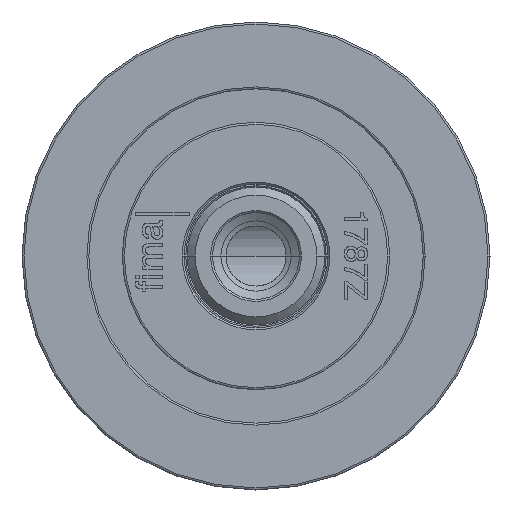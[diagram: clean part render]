
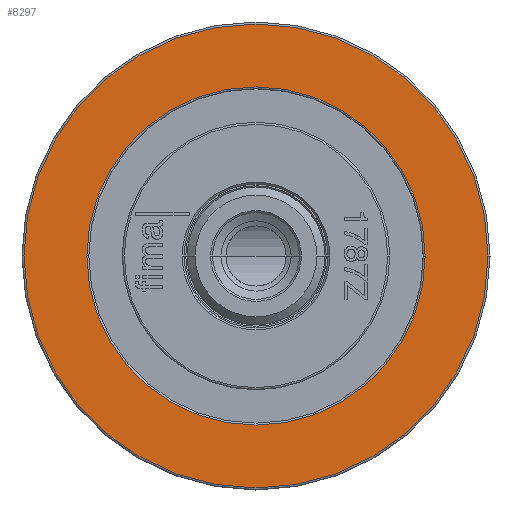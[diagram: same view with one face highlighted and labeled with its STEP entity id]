
A CAD part, front view. The second image highlights one B-rep face of the part: STEP entity #8297.
In plain terms, the highlighted planar face has unit normal (0, -1, 0).
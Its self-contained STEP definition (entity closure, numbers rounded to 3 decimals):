
#5711=CARTESIAN_POINT('',(0.,0.,0.));
#5712=DIRECTION('',(0.,-1.,0.));
#5713=DIRECTION('',(-1.,0.,0.));
#5714=AXIS2_PLACEMENT_3D('',#5711,#5712,#5713);
#5716=CARTESIAN_POINT('',(0.,0.,0.));
#5717=DIRECTION('',(0.,-1.,0.));
#5718=DIRECTION('',(1.,0.,0.));
#5719=AXIS2_PLACEMENT_3D('',#5716,#5717,#5718);
#5721=CARTESIAN_POINT('',(0.,0.,0.));
#5722=DIRECTION('',(0.,-1.,0.));
#5723=DIRECTION('',(-1.,0.,0.));
#5724=AXIS2_PLACEMENT_3D('',#5721,#5722,#5723);
#5726=CARTESIAN_POINT('',(0.,0.,0.));
#5727=DIRECTION('',(0.,-1.,0.));
#5728=DIRECTION('',(1.,0.,0.));
#5729=AXIS2_PLACEMENT_3D('',#5726,#5727,#5728);
#7552=CARTESIAN_POINT('',(-25.3,0.,0.));
#7553=CARTESIAN_POINT('',(25.3,0.,0.));
#7554=VERTEX_POINT('',#7552);
#7555=VERTEX_POINT('',#7553);
#7736=CARTESIAN_POINT('',(-34.7,0.,0.));
#7737=CARTESIAN_POINT('',(34.7,0.,0.));
#7738=VERTEX_POINT('',#7736);
#7739=VERTEX_POINT('',#7737);
#8281=CARTESIAN_POINT('',(0.,0.,0.));
#8282=DIRECTION('',(0.,1.,0.));
#8283=DIRECTION('',(1.,0.,0.));
#8284=AXIS2_PLACEMENT_3D('',#8281,#8282,#8283);
#8285=PLANE('',#8284);
#8286=ORIENTED_EDGE('',*,*,#8271,.F.);
#8288=ORIENTED_EDGE('',*,*,#8287,.F.);
#8289=EDGE_LOOP('',(#8286,#8288));
#8290=FACE_OUTER_BOUND('',#8289,.F.);
#8292=ORIENTED_EDGE('',*,*,#8291,.T.);
#8294=ORIENTED_EDGE('',*,*,#8293,.T.);
#8295=EDGE_LOOP('',(#8292,#8294));
#8296=FACE_BOUND('',#8295,.F.);
#8297=ADVANCED_FACE('',(#8290,#8296),#8285,.F.);
#5715=CIRCLE('',#5714,25.3);
#5720=CIRCLE('',#5719,25.3);
#5725=CIRCLE('',#5724,34.7);
#5730=CIRCLE('',#5729,34.7);
#8271=EDGE_CURVE('',#7738,#7739,#5725,.T.);
#8287=EDGE_CURVE('',#7739,#7738,#5730,.T.);
#8291=EDGE_CURVE('',#7554,#7555,#5715,.T.);
#8293=EDGE_CURVE('',#7555,#7554,#5720,.T.);
